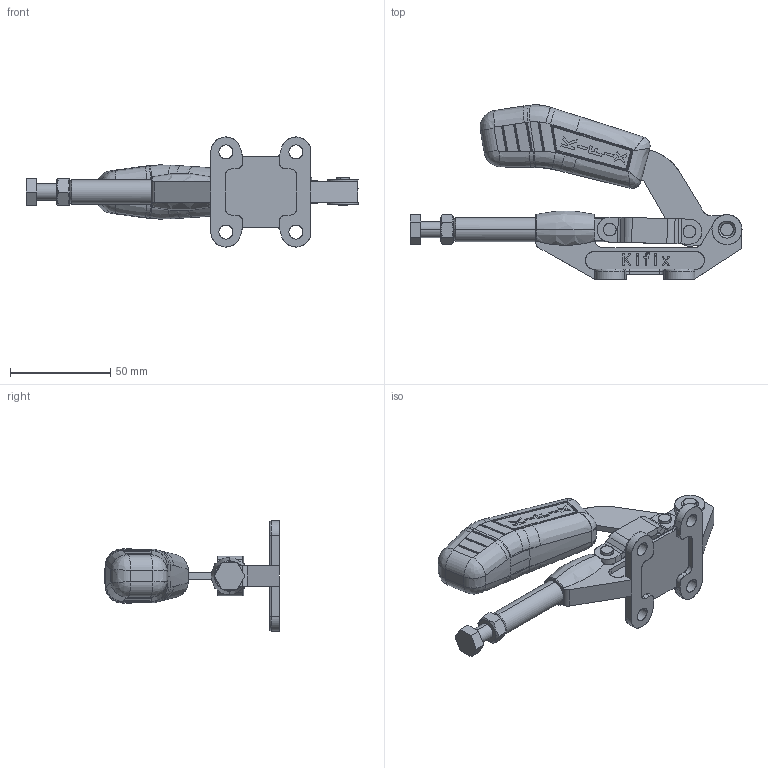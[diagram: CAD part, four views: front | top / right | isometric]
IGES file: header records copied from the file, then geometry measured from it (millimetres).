
Start section: SolidWorks IGES file using analytic representation for surfaces
Global section: file name: C:\Projetos\Grampos\KF-057\KF-057\KF-057.IGS; native system: SolidWorks 2013; preprocessor: SolidWorks 2013; author: Ricardo; date: 140819.090654; units: millimetre
Bounding box: 165.88 x 87.2 x 54.99 mm (x, y, z)
Surface area: 40734.5 mm2 (no closed solid volume)
Topology: 0 solids, 0 shells, 792 faces, 8736 edges, 8723 vertices
Faces by surface type: bspline 571, revolution 221
